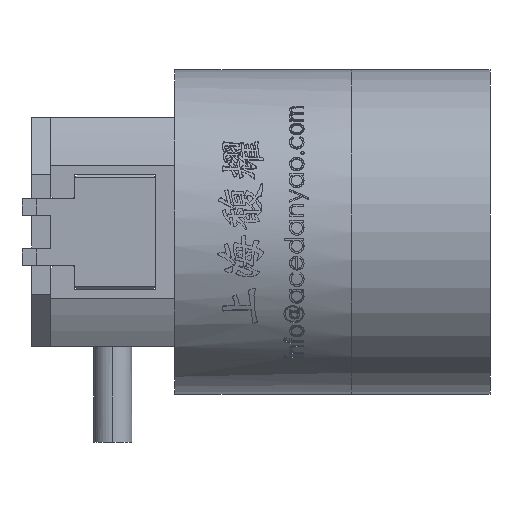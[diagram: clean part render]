
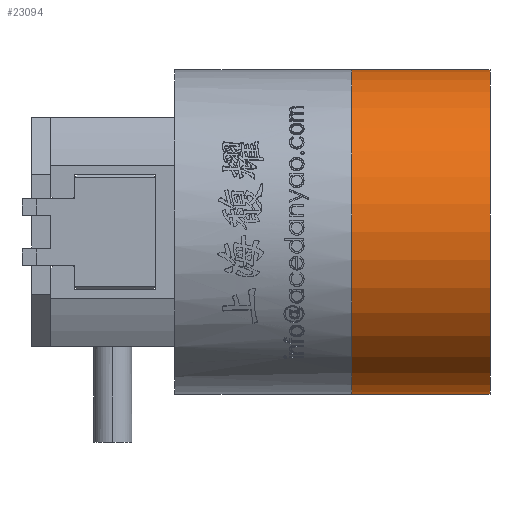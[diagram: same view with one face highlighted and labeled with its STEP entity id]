
A CAD part, left-side view. The second image highlights one B-rep face of the part: STEP entity #23094.
In plain terms, the highlighted cylindrical face has radius 17 mm (diameter 34 mm), a partial arc.
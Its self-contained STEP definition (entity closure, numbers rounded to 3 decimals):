
#417 = EDGE_CURVE ( 'NONE', #57342, #57766, #1977, .T. ) ;
#1668 = DIRECTION ( 'NONE',  ( 0., 1., 0. ) ) ;
#1977 = CIRCLE ( 'NONE', #59052, 17. ) ;
#6171 = CARTESIAN_POINT ( 'NONE',  ( 0., -14.5, 0. ) ) ;
#7669 = CARTESIAN_POINT ( 'NONE',  ( 0., 0., 0. ) ) ;
#7683 = VECTOR ( 'NONE', #1668, 1000. ) ;
#9216 = CARTESIAN_POINT ( 'NONE',  ( 0., -14.5, 0. ) ) ;
#11408 = ORIENTED_EDGE ( 'NONE', *, *, #62250, .F. ) ;
#11650 = CARTESIAN_POINT ( 'NONE',  ( 0., 0., -17. ) ) ;
#11792 = LINE ( 'NONE', #26284, #55996 ) ;
#12011 = DIRECTION ( 'NONE',  ( 0., 1., 0. ) ) ;
#13509 = DIRECTION ( 'NONE',  ( 0., 0., 1. ) ) ;
#15016 = DIRECTION ( 'NONE',  ( 0., 0., 1. ) ) ;
#19249 = AXIS2_PLACEMENT_3D ( 'NONE', #7669, #48049, #13509 ) ;
#20488 = DIRECTION ( 'NONE',  ( 0., 1., 0. ) ) ;
#23094 = ADVANCED_FACE ( 'NONE', ( #39479 ), #66552, .T. ) ;
#25800 = ORIENTED_EDGE ( 'NONE', *, *, #41285, .T. ) ;
#26284 = CARTESIAN_POINT ( 'NONE',  ( 0., -14.5, 17. ) ) ;
#29417 = CIRCLE ( 'NONE', #19249, 17. ) ;
#33416 = VERTEX_POINT ( 'NONE', #11650 ) ;
#35753 = CARTESIAN_POINT ( 'NONE',  ( 0., -14.5, -17. ) ) ;
#37151 = CARTESIAN_POINT ( 'NONE',  ( 0., -14.5, 17. ) ) ;
#39445 = ORIENTED_EDGE ( 'NONE', *, *, #417, .T. ) ;
#39479 = FACE_OUTER_BOUND ( 'NONE', #42987, .T. ) ;
#40240 = LINE ( 'NONE', #70804, #7683 ) ;
#40738 = DIRECTION ( 'NONE',  ( 0., 0., 1. ) ) ;
#41285 = EDGE_CURVE ( 'NONE', #57766, #58295, #11792, .T. ) ;
#42987 = EDGE_LOOP ( 'NONE', ( #11408, #39445, #25800, #66513 ) ) ;
#45932 = CARTESIAN_POINT ( 'NONE',  ( 0., 0., 17. ) ) ;
#48049 = DIRECTION ( 'NONE',  ( 0., 1., 0. ) ) ;
#49571 = DIRECTION ( 'NONE',  ( 0., 1., 0. ) ) ;
#55996 = VECTOR ( 'NONE', #20488, 1000. ) ;
#56848 = EDGE_CURVE ( 'NONE', #33416, #58295, #29417, .T. ) ;
#57342 = VERTEX_POINT ( 'NONE', #35753 ) ;
#57766 = VERTEX_POINT ( 'NONE', #37151 ) ;
#58295 = VERTEX_POINT ( 'NONE', #45932 ) ;
#59052 = AXIS2_PLACEMENT_3D ( 'NONE', #9216, #49571, #15016 ) ;
#62250 = EDGE_CURVE ( 'NONE', #57342, #33416, #40240, .T. ) ;
#66513 = ORIENTED_EDGE ( 'NONE', *, *, #56848, .F. ) ;
#66552 = CYLINDRICAL_SURFACE ( 'NONE', #68163, 17. ) ;
#68163 = AXIS2_PLACEMENT_3D ( 'NONE', #6171, #12011, #40738 ) ;
#70804 = CARTESIAN_POINT ( 'NONE',  ( 0., -14.5, -17. ) ) ;
